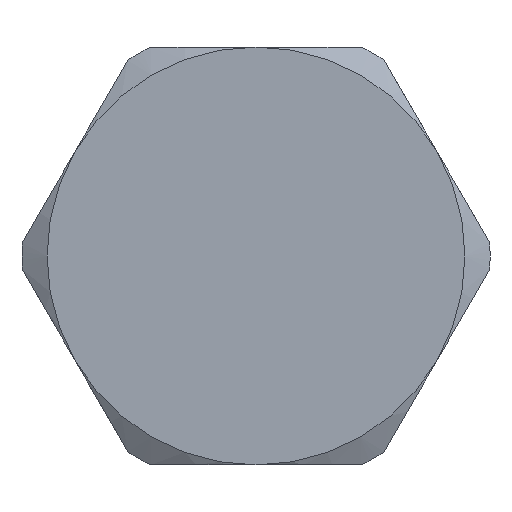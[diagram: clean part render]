
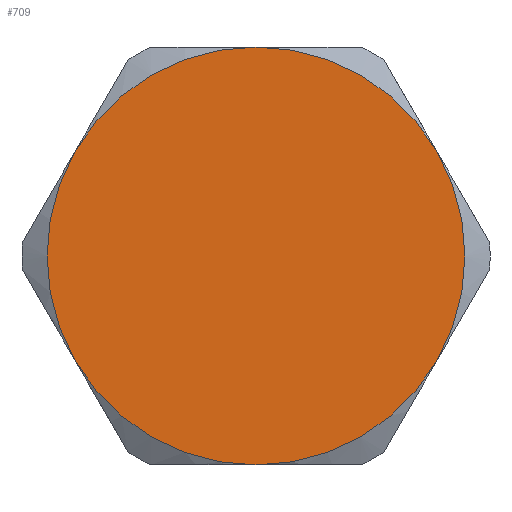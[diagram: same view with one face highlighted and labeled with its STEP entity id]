
A CAD part, left-side view. The second image highlights one B-rep face of the part: STEP entity #709.
In plain terms, the highlighted planar face has unit normal (-1, 0, 0).
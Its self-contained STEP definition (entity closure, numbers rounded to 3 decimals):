
#10 = VERTEX_POINT ( 'NONE', #952 ) ;
#27 = AXIS2_PLACEMENT_3D ( 'NONE', #1040, #455, #958 ) ;
#54 = VERTEX_POINT ( 'NONE', #860 ) ;
#77 = CARTESIAN_POINT ( 'NONE',  ( -27., 25.981, -15. ) ) ;
#81 = DIRECTION ( 'NONE',  ( 1., 0., 0. ) ) ;
#89 = ORIENTED_EDGE ( 'NONE', *, *, #193, .F. ) ;
#95 = CARTESIAN_POINT ( 'NONE',  ( -27., -25.981, 15. ) ) ;
#134 = DIRECTION ( 'NONE',  ( 1., 0., 0. ) ) ;
#182 = VERTEX_POINT ( 'NONE', #704 ) ;
#183 = CARTESIAN_POINT ( 'NONE',  ( -27., 0., 0. ) ) ;
#193 = EDGE_CURVE ( 'NONE', #182, #54, #929, .T. ) ;
#200 = CIRCLE ( 'NONE', #1051, 30. ) ;
#218 = ORIENTED_EDGE ( 'NONE', *, *, #688, .F. ) ;
#260 = DIRECTION ( 'NONE',  ( 0., 1., 0. ) ) ;
#265 = EDGE_CURVE ( 'NONE', #54, #686, #538, .T. ) ;
#272 = ORIENTED_EDGE ( 'NONE', *, *, #265, .F. ) ;
#285 = AXIS2_PLACEMENT_3D ( 'NONE', #556, #994, #467 ) ;
#333 = CARTESIAN_POINT ( 'NONE',  ( -27., 0., 0. ) ) ;
#355 = FACE_OUTER_BOUND ( 'NONE', #612, .T. ) ;
#421 = DIRECTION ( 'NONE',  ( 0., 1., 0. ) ) ;
#423 = CARTESIAN_POINT ( 'NONE',  ( -27., 30., 0. ) ) ;
#455 = DIRECTION ( 'NONE',  ( 1., 0., 0. ) ) ;
#467 = DIRECTION ( 'NONE',  ( 0., 1., 0. ) ) ;
#499 = PLANE ( 'NONE',  #1101 ) ;
#504 = EDGE_CURVE ( 'NONE', #10, #825, #1008, .T. ) ;
#533 = CARTESIAN_POINT ( 'NONE',  ( -27., 0., 0. ) ) ;
#538 = CIRCLE ( 'NONE', #285, 30. ) ;
#556 = CARTESIAN_POINT ( 'NONE',  ( -27., 0., 0. ) ) ;
#566 = AXIS2_PLACEMENT_3D ( 'NONE', #533, #134, #623 ) ;
#579 = ORIENTED_EDGE ( 'NONE', *, *, #670, .F. ) ;
#583 = CARTESIAN_POINT ( 'NONE',  ( -27., 0., 0. ) ) ;
#587 = DIRECTION ( 'NONE',  ( 0., -1., 0. ) ) ;
#612 = EDGE_LOOP ( 'NONE', ( #895, #989, #272, #89, #579, #218 ) ) ;
#623 = DIRECTION ( 'NONE',  ( 0., 1., 0. ) ) ;
#660 = DIRECTION ( 'NONE',  ( 0., 1., 0. ) ) ;
#670 = EDGE_CURVE ( 'NONE', #779, #182, #835, .T. ) ;
#686 = VERTEX_POINT ( 'NONE', #77 ) ;
#688 = EDGE_CURVE ( 'NONE', #825, #779, #976, .T. ) ;
#704 = CARTESIAN_POINT ( 'NONE',  ( -27., -25.981, -15. ) ) ;
#709 = ADVANCED_FACE ( 'NONE', ( #355 ), #499, .T. ) ;
#710 = AXIS2_PLACEMENT_3D ( 'NONE', #333, #914, #421 ) ;
#758 = DIRECTION ( 'NONE',  ( 1., 0., 0. ) ) ;
#761 = AXIS2_PLACEMENT_3D ( 'NONE', #583, #81, #660 ) ;
#772 = EDGE_CURVE ( 'NONE', #686, #10, #200, .T. ) ;
#779 = VERTEX_POINT ( 'NONE', #95 ) ;
#825 = VERTEX_POINT ( 'NONE', #935 ) ;
#830 = DIRECTION ( 'NONE',  ( -1., 0., 0. ) ) ;
#835 = CIRCLE ( 'NONE', #710, 30. ) ;
#860 = CARTESIAN_POINT ( 'NONE',  ( -27., 0., -30. ) ) ;
#895 = ORIENTED_EDGE ( 'NONE', *, *, #504, .F. ) ;
#914 = DIRECTION ( 'NONE',  ( 1., 0., 0. ) ) ;
#929 = CIRCLE ( 'NONE', #566, 30. ) ;
#935 = CARTESIAN_POINT ( 'NONE',  ( -27., 0., 30. ) ) ;
#952 = CARTESIAN_POINT ( 'NONE',  ( -27., 25.981, 15. ) ) ;
#958 = DIRECTION ( 'NONE',  ( 0., 1., 0. ) ) ;
#976 = CIRCLE ( 'NONE', #761, 30. ) ;
#989 = ORIENTED_EDGE ( 'NONE', *, *, #772, .F. ) ;
#994 = DIRECTION ( 'NONE',  ( 1., 0., 0. ) ) ;
#1008 = CIRCLE ( 'NONE', #27, 30. ) ;
#1040 = CARTESIAN_POINT ( 'NONE',  ( -27., 0., 0. ) ) ;
#1051 = AXIS2_PLACEMENT_3D ( 'NONE', #183, #758, #260 ) ;
#1101 = AXIS2_PLACEMENT_3D ( 'NONE', #423, #830, #587 ) ;
